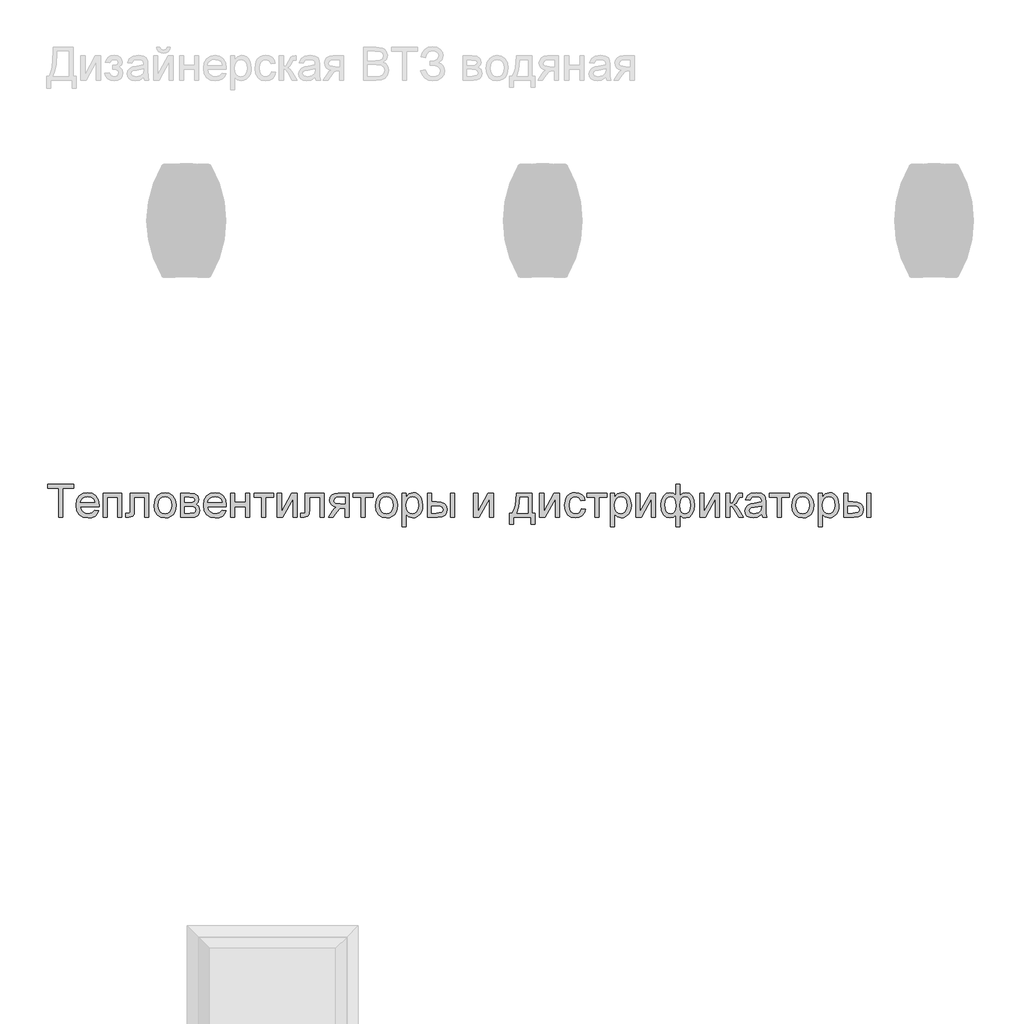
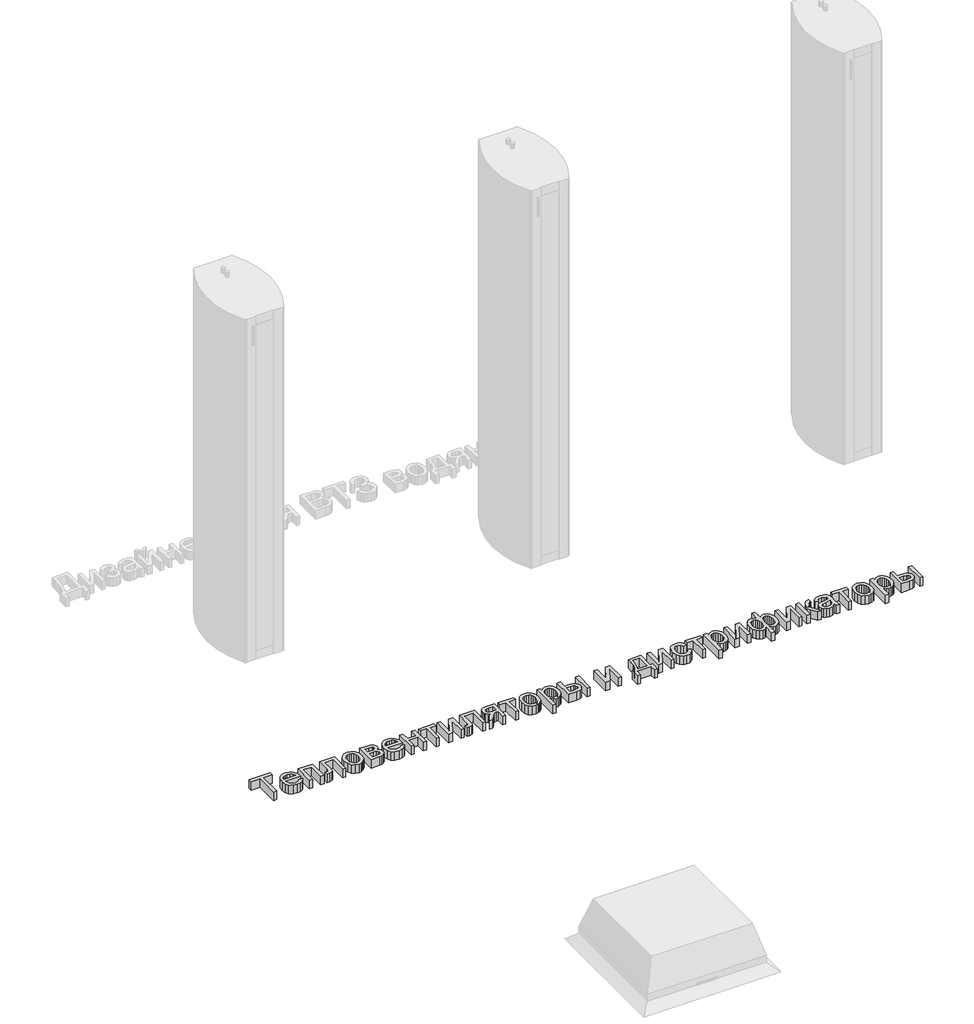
# One storey, part 2 of 6: 1 proxy.
"""IFC4 building model written with IfcOpenShell, lengths in millimetres."""

import ifcopenshell
import ifcopenshell.guid

model = None  # the IFC model being written
_history = None  # IfcOwnerHistory: only IFC2X3 demands one
_inside = {}  # id of a spatial element -> (the spatial element, [elements in it])
_under = {}  # id of a project, library or spatial element -> (it, [spatial elements below it])
_declared = {}  # id of a project -> (the project, [libraries it declares])
_typed = {}  # id of a type object -> (the type object, [elements of that type])
_made_of = {}  # id of a material, layer set ... -> (it, [elements and type objects made of it])


def new_model(schema):
    """Start an empty IFC model of exactly this schema.

    Asked for "IFC4X3", IfcOpenShell would pick the latest addendum, in which some entities
    have other attributes; the version numbers below select the first issue.
    IFC2X3 requires an IfcOwnerHistory on every rooted entity: one is made here for all.
    """
    global model, _history
    if schema == "IFC4X3":
        model = ifcopenshell.file(schema_version=(4, 3, 0, 0))
    else:
        model = ifcopenshell.file(schema=schema)
    _inside.clear()
    _under.clear()
    _declared.clear()
    _typed.clear()
    _made_of.clear()
    _history = None
    if model.schema == "IFC2X3":
        org = make("IfcOrganization", Name="unknown")
        user = make(
            "IfcPersonAndOrganization",
            ThePerson=make("IfcPerson", FamilyName="unknown"),
            TheOrganization=org,
        )
        app = make(
            "IfcApplication",
            ApplicationDeveloper=org,
            Version="unknown",
            ApplicationFullName="unknown",
            ApplicationIdentifier="unknown",
        )
        _history = make(
            "IfcOwnerHistory",
            OwningUser=user,
            OwningApplication=app,
            ChangeAction="ADDED",
            CreationDate=0,
        )
    return model


def make(cls, **values):
    """One entity of the class cls with the attributes given. An attribute that is None is left unset."""
    return model.create_entity(
        cls, **{name: value for name, value in values.items() if value is not None}
    )


def rooted(cls, **values):
    """An entity with a GlobalId (a new one), such as an element, a storey or a relation."""
    return make(cls, GlobalId=ifcopenshell.guid.new(), OwnerHistory=_history, **values)


def si_unit(unit_type, name, prefix=None):
    """IfcSIUnit, for example si_unit("LENGTHUNIT", "METRE", prefix="MILLI")."""
    return make("IfcSIUnit", UnitType=unit_type, Prefix=prefix, Name=name)


def assignment(units):
    """IfcUnitAssignment: the units of a project."""
    return None if units is None else make("IfcUnitAssignment", Units=units)


def point(xyz):
    """IfcCartesianPoint."""
    return None if xyz is None else make("IfcCartesianPoint", Coordinates=xyz)


def direction(xyz):
    """IfcDirection."""
    return None if xyz is None else make("IfcDirection", DirectionRatios=xyz)


def frame(location, z_axis=None, x_axis=None):
    """IfcAxis2Placement3D, a coordinate frame: its origin and axes. An axis left out is left unset."""
    return make(
        "IfcAxis2Placement3D",
        Location=point(location),
        Axis=direction(z_axis),
        RefDirection=direction(x_axis),
    )


def origin():
    """The frame at (0, 0, 0) with its axes left unset."""
    return frame((0.0, 0.0, 0.0))


def origin_with_axes():
    """The frame at (0, 0, 0) with the z axis (0, 0, 1) and the x axis (1, 0, 0) written out."""
    return frame((0.0, 0.0, 0.0), z_axis=(0.0, 0.0, 1.0), x_axis=(1.0, 0.0, 0.0))


def place(relative_to, where):
    """IfcLocalPlacement: puts the frame where relative to a parent placement (None: the world)."""
    return make(
        "IfcLocalPlacement", PlacementRelTo=relative_to, RelativePlacement=where
    )


def context(
    kind, dimensions, precision=None, world=None, true_north=None, identifier=None
):
    """IfcGeometricRepresentationContext, for example the 3D "Model" context."""
    return make(
        "IfcGeometricRepresentationContext",
        ContextIdentifier=identifier,
        ContextType=kind,
        CoordinateSpaceDimension=dimensions,
        Precision=precision,
        WorldCoordinateSystem=world,
        TrueNorth=true_north,
    )


def project(units=None, contexts=None):
    """IfcProject with its units and contexts."""
    return rooted(
        "IfcProject",
        Name="project",
        RepresentationContexts=contexts,
        UnitsInContext=assignment(units),
    )


def spatial(cls, under=None, at=None, **own):
    """A site, building, storey or space (cls), placed at a placement, below another one or the project."""
    s = rooted(cls, ObjectPlacement=at, **own)
    if under is not None:
        _under.setdefault(under.id(), (under, []))[1].append(s)
    return s


def polyline(points):
    """IfcPolyline through the points."""
    return make("IfcPolyline", Points=[point(p) for p in points])


def outline(outer, holes=None, kind="AREA"):
    """IfcArbitraryClosedProfileDef: a profile drawn as a closed curve; with holes, ...WithVoids."""
    if holes is None:
        return make("IfcArbitraryClosedProfileDef", ProfileType=kind, OuterCurve=outer)
    return make(
        "IfcArbitraryProfileDefWithVoids",
        ProfileType=kind,
        OuterCurve=outer,
        InnerCurves=holes,
    )


def extrude(swept, where, along, depth):
    """IfcExtrudedAreaSolid: the profile swept, set in the frame where, extruded along a direction by depth."""
    return make(
        "IfcExtrudedAreaSolid",
        SweptArea=swept,
        Position=where,
        ExtrudedDirection=direction(along),
        Depth=depth,
    )


def shape(context_of_items, identifier, shape_type, items):
    """IfcShapeRepresentation: the items that make up one representation, for example the "Body"."""
    return make(
        "IfcShapeRepresentation",
        ContextOfItems=context_of_items,
        RepresentationIdentifier=identifier,
        RepresentationType=shape_type,
        Items=items,
    )


def made_of(thing, what):
    """Note that an element or type object is made of a material, layer set ...; save() writes the relation."""
    if what is not None:
        _made_of.setdefault(what.id(), (what, []))[1].append(thing)
    return thing


def element(
    cls,
    number,
    at=None,
    inside=None,
    cuts=None,
    type_object=None,
    material=None,
    context=None,
    identifier="Body",
    shape_type=None,
    held_by="IfcProductDefinitionShape",
    body=None,
    shapes=None,
    **own,
):
    """One element of the class cls, such as IfcWall. Its Tag is "e" and its number.

    at: its placement. inside: the storey or other place that contains it. cuts: it is an
    opening in that element (IfcRelVoidsElement). A single representation is given by context,
    identifier, shape_type and body (its items); several are given by shapes. held_by: the class
    of the entity that holds the representations. save() writes the other relations.
    """
    e = rooted(cls, Tag="e%d" % number, ObjectPlacement=at, **own)
    if body is not None:
        shapes = [shape(context, identifier, shape_type, body)]
    if shapes is not None:
        e.Representation = make(held_by, Representations=shapes)
    if inside is not None:
        _inside.setdefault(inside.id(), (inside, []))[1].append(e)
    if cuts is not None:
        rooted(
            "IfcRelVoidsElement", RelatingBuildingElement=cuts, RelatedOpeningElement=e
        )
    if type_object is not None:
        _typed.setdefault(type_object.id(), (type_object, []))[1].append(e)
    return made_of(e, material)


def aggregate(whole, parts):
    """IfcRelAggregates: a whole, such as a stair, and the parts it consists of."""
    return rooted("IfcRelAggregates", RelatingObject=whole, RelatedObjects=parts)


def save(model, path):
    """Write the relations noted so far, then the file.

    IfcRelAggregates (storeys below a building ...), IfcRelContainedInSpatialStructure (elements
    in a storey), IfcRelDefinesByType, IfcRelAssociatesMaterial and IfcRelDeclares: one each for
    every whole, place, type object, material and project.
    """
    for whole, parts in _under.values():
        aggregate(whole, parts)
    for where, things in _inside.values():
        rooted(
            "IfcRelContainedInSpatialStructure",
            RelatedElements=things,
            RelatingStructure=where,
        )
    for kind, things in _typed.values():
        rooted("IfcRelDefinesByType", RelatedObjects=things, RelatingType=kind)
    for what, things in _made_of.values():
        rooted("IfcRelAssociatesMaterial", RelatedObjects=things, RelatingMaterial=what)
    for by, libraries in _declared.values():
        rooted("IfcRelDeclares", RelatingContext=by, RelatedDefinitions=libraries)
    model.write(path)


model = new_model("IFC4")

# Units and contexts
model_context = context("Model", 3, world=origin())
ifc_project = project(units=[si_unit("LENGTHUNIT", "METRE", prefix="MILLI")], contexts=[model_context])

# Site, building, storey
site = spatial("IfcSite", under=ifc_project)
building = spatial("IfcBuilding", under=site)
storey = spatial("IfcBuildingStorey", under=building, Name="Уровень 1", Elevation=0.0)

# Proxy
placement = place(None, origin())
element("IfcBuildingElementProxy", 1, Name="600 мм Arial", ObjectType="600 мм Arial", at=placement, inside=storey, context=model_context, shape_type="SweptSolid", body=[
    extrude(outline(polyline([(-13705.1624214, -4991.0848445), (-13705.1624214, -4861.8540753), (-13753.6239599, -4861.8540753), (-13753.6239599, -4843.3925368), (-13638.2393445, -4843.3925368), (-13638.2393445, -4861.8540753), (-13686.700883, -4861.8540753), (-13686.700883, -4991.0848445), (-13705.1624214, -4991.0848445)])), origin_with_axes(), (0.0, 0.0, 1.0), 50.0),
    extrude(outline(polyline([(-13543.840306, -4958.7771522), (-13525.7393445, -4961.0848445), (-13532.2612796, -4974.7236666), (-13542.668431, -4984.9189791), (-13556.7264238, -4991.2741474), (-13574.200883, -4993.3925368), (-13595.8625416, -4989.7371883), (-13612.5302099, -4978.7711426), (-13623.1582147, -4961.2065392), (-13626.700883, -4937.7555176), (-13623.122157, -4913.5157339), (-13612.3859791, -4895.3877291), (-13595.9436714, -4884.0836426), (-13575.246556, -4880.3156137), (-13555.1939719, -4884.0746282), (-13539.1708349, -4895.3516714), (-13528.6645248, -4913.4436186), (-13525.1624214, -4937.6473445), (-13525.2705945, -4942.6233061), (-13608.2393445, -4942.6233061), (-13605.0437315, -4956.4424166), (-13597.6203541, -4966.6016714), (-13586.9067123, -4972.8486666), (-13573.840306, -4974.9309984), (-13555.7393445, -4971.0728253), (-13543.840306, -4958.7771522)]), holes=[polyline([(-13608.2393445, -4924.1617676), (-13543.6239599, -4924.1617676), (-13546.1209551, -4914.4081618), (-13551.0157868, -4907.4309984), (-13561.779008, -4900.9406137), (-13575.3186714, -4898.7771522), (-13587.7630825, -4900.5034142), (-13598.0530464, -4905.6822003), (-13605.2059911, -4913.7546162), (-13608.2393445, -4924.1617676)])]), origin_with_axes(), (0.0, 0.0, 1.0), 50.0),
    extrude(outline(polyline([(-13506.700883, -4882.6233061), (-13423.6239599, -4882.6233061), (-13423.6239599, -4991.0848445), (-13442.0854983, -4991.0848445), (-13442.0854983, -4901.0848445), (-13488.2393445, -4901.0848445), (-13488.2393445, -4991.0848445), (-13506.700883, -4991.0848445), (-13506.700883, -4882.6233061)])), origin_with_axes(), (0.0, 0.0, 1.0), 50.0),
    extrude(outline(polyline([(-13386.700883, -4882.6233061), (-13303.6239599, -4882.6233061), (-13303.6239599, -4990.9766714), (-13322.0854983, -4990.9766714), (-13322.0854983, -4901.0848445), (-13368.2393445, -4901.0848445), (-13368.2393445, -4952.827633), (-13369.4833349, -4976.6978253), (-13376.3162676, -4986.7759503), (-13392.4701137, -4991.0848445), (-13407.4701137, -4990.1473445), (-13407.4701137, -4972.6233061), (-13399.2129022, -4972.6233061), (-13390.8655464, -4971.4874887), (-13387.5302099, -4967.8817195), (-13386.700883, -4951.7819599), (-13386.700883, -4882.6233061)])), origin_with_axes(), (0.0, 0.0, 1.0), 50.0),
    extrude(outline(polyline([(-13280.5470368, -4936.8540753), (-13276.5536474, -4910.7032339), (-13264.5734791, -4892.3228253), (-13249.7717964, -4883.3174166), (-13232.0494407, -4880.3156137), (-13212.6549094, -4883.9709623), (-13197.1636233, -4894.937008), (-13187.0088758, -4912.3483662), (-13183.6239599, -4935.3396522), (-13185.1203541, -4953.9904936), (-13189.6095368, -4968.1882099), (-13196.9607988, -4978.8207219), (-13207.043431, -4986.7759503), (-13219.0190921, -4991.7383902), (-13232.0494407, -4993.3925368), (-13251.6783469, -4989.7507099), (-13267.1516041, -4978.8252291), (-13277.1981786, -4961.0487868), (-13280.5470368, -4936.8540753)]), holes=[polyline([(-13262.0854983, -4936.8180176), (-13259.9490801, -4953.5262508), (-13253.5398253, -4965.4297964), (-13243.8943926, -4972.5556979), (-13232.0494407, -4974.9309984), (-13220.2585753, -4972.5421762), (-13210.6311714, -4965.3757099), (-13204.2219166, -4953.3144118), (-13202.0854983, -4936.2410945), (-13204.2354383, -4920.0196402), (-13210.685258, -4908.2783541), (-13220.3261834, -4901.1524527), (-13232.0494407, -4898.7771522), (-13243.8943926, -4901.1434383), (-13253.5398253, -4908.2422964), (-13259.9490801, -4920.1187988), (-13262.0854983, -4936.8180176)])]), origin_with_axes(), (0.0, 0.0, 1.0), 50.0),
    extrude(outline(polyline([(-13162.8547291, -4882.6233061), (-13122.1816522, -4882.6233061), (-13099.8799695, -4885.093258), (-13087.3318926, -4894.1437387), (-13082.0854983, -4909.9189791), (-13085.2585753, -4922.7374887), (-13094.8138637, -4931.8781137), (-13082.4100176, -4941.8841234), (-13077.4701137, -4959.2819599), (-13080.5981185, -4973.3534743), (-13088.0350176, -4983.2603253), (-13099.8078541, -4989.1287147), (-13115.9436714, -4991.0848445), (-13162.8547291, -4991.0848445), (-13162.8547291, -4882.6233061)]), holes=[polyline([(-13144.3931907, -4924.1617676), (-13126.1479983, -4924.1617676), (-13111.0939118, -4923.2242676), (-13103.7742003, -4919.4742676), (-13100.5470368, -4912.6954214), (-13101.9623012, -4907.1876089), (-13106.2080945, -4903.6449407), (-13125.5710753, -4901.0848445), (-13144.3931907, -4901.0848445), (-13144.3931907, -4924.1617676)]), polyline([(-13144.3931907, -4972.6233061), (-13121.7489599, -4972.6233061), (-13101.6648253, -4969.2879695), (-13097.5091762, -4964.7401931), (-13095.9316522, -4957.7675368), (-13099.0867003, -4948.8793157), (-13107.3078541, -4943.7050368), (-13123.5518445, -4942.6233061), (-13144.3931907, -4942.6233061), (-13144.3931907, -4972.6233061)])]), origin_with_axes(), (0.0, 0.0, 1.0), 50.0),
    extrude(outline(polyline([(-12978.4556907, -4958.7771522), (-12960.3547291, -4961.0848445), (-12966.8766642, -4974.7236666), (-12977.2838157, -4984.9189791), (-12991.3418084, -4991.2741474), (-13008.8162676, -4993.3925368), (-13030.4779262, -4989.7371883), (-13047.1455945, -4978.7711426), (-13057.7735993, -4961.2065392), (-13061.3162676, -4937.7555176), (-13057.7375416, -4913.5157339), (-13047.0013637, -4895.3877291), (-13030.559056, -4884.0836426), (-13009.8619407, -4880.3156137), (-12989.8093565, -4884.0746282), (-12973.7862195, -4895.3516714), (-12963.2799094, -4913.4436186), (-12959.777806, -4937.6473445), (-12959.8859791, -4942.6233061), (-13042.8547291, -4942.6233061), (-13039.6591161, -4956.4424166), (-13032.2357387, -4966.6016714), (-13021.5220969, -4972.8486666), (-13008.4556907, -4974.9309984), (-12990.3547291, -4971.0728253), (-12978.4556907, -4958.7771522)]), holes=[polyline([(-13042.8547291, -4924.1617676), (-12978.2393445, -4924.1617676), (-12980.7363397, -4914.4081618), (-12985.6311714, -4907.4309984), (-12996.3943926, -4900.9406137), (-13009.934056, -4898.7771522), (-13022.3784671, -4900.5034142), (-13032.668431, -4905.6822003), (-13039.8213758, -4913.7546162), (-13042.8547291, -4924.1617676)])]), origin_with_axes(), (0.0, 0.0, 1.0), 50.0),
    extrude(outline(polyline([(-12941.3162676, -4882.6233061), (-12922.8547291, -4882.6233061), (-12922.8547291, -4924.1617676), (-12874.3931907, -4924.1617676), (-12874.3931907, -4882.6233061), (-12855.9316522, -4882.6233061), (-12855.9316522, -4991.0848445), (-12874.3931907, -4991.0848445), (-12874.3931907, -4942.6233061), (-12922.8547291, -4942.6233061), (-12922.8547291, -4991.0848445), (-12941.3162676, -4991.0848445), (-12941.3162676, -4882.6233061)])), origin_with_axes(), (0.0, 0.0, 1.0), 50.0),
    extrude(outline(polyline([(-12837.4701137, -4882.6233061), (-12749.777806, -4882.6233061), (-12749.777806, -4901.0848445), (-12784.3931907, -4901.0848445), (-12784.3931907, -4991.0848445), (-12802.8547291, -4991.0848445), (-12802.8547291, -4901.0848445), (-12837.4701137, -4901.0848445), (-12837.4701137, -4882.6233061)])), origin_with_axes(), (0.0, 0.0, 1.0), 50.0),
    extrude(outline(polyline([(-12733.6239599, -4882.6233061), (-12715.1624214, -4882.6233061), (-12715.1624214, -4965.3396522), (-12669.8018445, -4882.6233061), (-12645.9316522, -4882.6233061), (-12645.9316522, -4991.0848445), (-12664.3931907, -4991.0848445), (-12664.3931907, -4908.8733061), (-12709.465306, -4991.0848445), (-12733.6239599, -4991.0848445), (-12733.6239599, -4882.6233061)])), origin_with_axes(), (0.0, 0.0, 1.0), 50.0),
    extrude(outline(polyline([(-12609.0085753, -4882.6233061), (-12525.9316522, -4882.6233061), (-12525.9316522, -4990.9766714), (-12544.3931907, -4990.9766714), (-12544.3931907, -4901.0848445), (-12590.5470368, -4901.0848445), (-12590.5470368, -4952.827633), (-12591.7910272, -4976.6978253), (-12598.6239599, -4986.7759503), (-12614.777806, -4991.0848445), (-12629.777806, -4990.1473445), (-12629.777806, -4972.6233061), (-12621.5205945, -4972.6233061), (-12613.1732387, -4971.4874887), (-12609.8379022, -4967.8817195), (-12609.0085753, -4951.7819599), (-12609.0085753, -4882.6233061)])), origin_with_axes(), (0.0, 0.0, 1.0), 50.0),
    extrude(outline(polyline([(-12415.1624214, -4882.6233061), (-12415.1624214, -4991.0848445), (-12433.6239599, -4991.0848445), (-12433.6239599, -4949.546383), (-12443.684056, -4949.546383), (-12457.3859791, -4951.890133), (-12470.2585753, -4967.6473445), (-12484.9701137, -4991.0848445), (-12506.3162676, -4991.0848445), (-12487.7826137, -4961.4454214), (-12479.5975176, -4950.8084022), (-12472.0614599, -4946.0848445), (-12484.6816522, -4942.217657), (-12493.5518445, -4934.8709022), (-12498.7982387, -4925.0992676), (-12500.5470368, -4913.9574407), (-12498.1582147, -4901.3192195), (-12490.9917483, -4891.3132099), (-12479.3000416, -4884.795782), (-12463.3354983, -4882.6233061), (-12415.1624214, -4882.6233061)]), holes=[polyline([(-12433.6239599, -4901.0848445), (-12457.9629022, -4901.0848445), (-12470.5335152, -4902.1530537), (-12477.668431, -4905.3576811), (-12482.0854983, -4915.3636907), (-12480.458395, -4922.3994479), (-12475.5770849, -4927.280758), (-12452.5181907, -4931.0848445), (-12433.6239599, -4931.0848445), (-12433.6239599, -4901.0848445)])]), origin_with_axes(), (0.0, 0.0, 1.0), 50.0),
    extrude(outline(polyline([(-12396.700883, -4882.6233061), (-12309.0085753, -4882.6233061), (-12309.0085753, -4901.0848445), (-12343.6239599, -4901.0848445), (-12343.6239599, -4991.0848445), (-12362.0854983, -4991.0848445), (-12362.0854983, -4901.0848445), (-12396.700883, -4901.0848445), (-12396.700883, -4882.6233061)])), origin_with_axes(), (0.0, 0.0, 1.0), 50.0),
    extrude(outline(polyline([(-12297.4701137, -4936.8540753), (-12293.4767243, -4910.7032339), (-12281.496556, -4892.3228253), (-12266.6948733, -4883.3174166), (-12248.9725176, -4880.3156137), (-12229.5779863, -4883.9709623), (-12214.0867003, -4894.937008), (-12203.9319527, -4912.3483662), (-12200.5470368, -4935.3396522), (-12202.043431, -4953.9904936), (-12206.5326137, -4968.1882099), (-12213.8838758, -4978.8207219), (-12223.966508, -4986.7759503), (-12235.942169, -4991.7383902), (-12248.9725176, -4993.3925368), (-12268.6014238, -4989.7507099), (-12284.074681, -4978.8252291), (-12294.1212556, -4961.0487868), (-12297.4701137, -4936.8540753)]), holes=[polyline([(-12279.0085753, -4936.8180176), (-12276.872157, -4953.5262508), (-12270.4629022, -4965.4297964), (-12260.8174695, -4972.5556979), (-12248.9725176, -4974.9309984), (-12237.1816522, -4972.5421762), (-12227.5542483, -4965.3757099), (-12221.1449935, -4953.3144118), (-12219.0085753, -4936.2410945), (-12221.1585152, -4920.0196402), (-12227.6083349, -4908.2783541), (-12237.2492604, -4901.1524527), (-12248.9725176, -4898.7771522), (-12260.8174695, -4901.1434383), (-12270.4629022, -4908.2422964), (-12276.872157, -4920.1187988), (-12279.0085753, -4936.8180176)])]), origin_with_axes(), (0.0, 0.0, 1.0), 50.0),
    extrude(outline(polyline([(-12179.777806, -5032.6233061), (-12179.777806, -4882.6233061), (-12161.3162676, -4882.6233061), (-12161.3162676, -4900.7242676), (-12148.5518445, -4885.4177772), (-12131.3162676, -4880.3156137), (-12118.8312916, -4882.1004695), (-12107.9148253, -4887.4550368), (-12099.0266041, -4896.0547964), (-12092.6263637, -4907.5752291), (-12087.4701137, -4936.0247484), (-12088.9259431, -4951.8135104), (-12093.293431, -4965.9346041), (-12100.4328541, -4977.671383), (-12110.2044887, -4986.3072003), (-12121.5851979, -4991.6212027), (-12133.5518445, -4993.3925368), (-12149.6155464, -4988.6509503), (-12161.3162676, -4976.6617676), (-12161.3162676, -5032.6233061), (-12179.777806, -5032.6233061)]), holes=[polyline([(-12161.3162676, -4937.7194599), (-12159.3195729, -4954.2699407), (-12153.3294887, -4965.8444599), (-12144.4908469, -4972.6593637), (-12133.9484791, -4974.9309984), (-12123.2348373, -4972.5782339), (-12114.1708349, -4965.5199407), (-12107.9914479, -4953.5217436), (-12105.9316522, -4936.3492676), (-12107.9418685, -4919.8889311), (-12113.9725176, -4908.1521522), (-12122.7976378, -4901.1209022), (-12133.1912676, -4898.7771522), (-12143.6254623, -4901.2696402), (-12152.7886233, -4908.7471041), (-12159.1843565, -4920.975169), (-12161.3162676, -4937.7194599)])]), origin_with_axes(), (0.0, 0.0, 1.0), 50.0),
    extrude(outline(polyline([(-12066.700883, -4882.6233061), (-12048.2393445, -4882.6233061), (-12048.2393445, -4921.8540753), (-12025.4148253, -4921.8540753), (-12005.6867604, -4924.1662748), (-11991.0698733, -4931.1028734), (-11982.0238998, -4942.1049767), (-11979.0085753, -4956.6136907), (-11981.5371209, -4969.8243277), (-11989.122758, -4980.9706618), (-12002.2612796, -4988.5562988), (-12021.4484791, -4991.0848445), (-12066.700883, -4991.0848445), (-12066.700883, -4882.6233061)]), holes=[polyline([(-12048.2393445, -4972.6233061), (-12029.2729983, -4972.6233061), (-12004.7898253, -4968.7471041), (-11999.3000416, -4963.7846642), (-11997.4701137, -4956.6497484), (-12002.8967964, -4945.2915753), (-12011.6002219, -4941.5596041), (-12026.857133, -4940.3156137), (-12048.2393445, -4940.3156137), (-12048.2393445, -4972.6233061)])]), origin_with_axes(), (0.0, 0.0, 1.0), 50.0),
    extrude(outline(polyline([(-11965.1624214, -4882.6233061), (-11946.700883, -4882.6233061), (-11946.700883, -4991.0848445), (-11965.1624214, -4991.0848445), (-11965.1624214, -4882.6233061)])), origin_with_axes(), (0.0, 0.0, 1.0), 50.0),
    extrude(outline(polyline([(-11861.3162676, -4882.6233061), (-11842.8547291, -4882.6233061), (-11842.8547291, -4965.3396522), (-11797.4941522, -4882.6233061), (-11773.6239599, -4882.6233061), (-11773.6239599, -4991.0848445), (-11792.0854983, -4991.0848445), (-11792.0854983, -4908.8733061), (-11837.1576137, -4991.0848445), (-11861.3162676, -4991.0848445), (-11861.3162676, -4882.6233061)])), origin_with_axes(), (0.0, 0.0, 1.0), 50.0),
    extrude(outline(polyline([(-11672.0854983, -4882.6233061), (-11602.8547291, -4882.6233061), (-11602.8547291, -4972.6233061), (-11589.0085753, -4972.6233061), (-11589.0085753, -5021.0848445), (-11607.4701137, -5021.0848445), (-11607.4701137, -4991.0848445), (-11683.6239599, -4991.0848445), (-11683.6239599, -5021.0848445), (-11702.0854983, -5021.0848445), (-11702.0854983, -4972.6233061), (-11690.5470368, -4972.6233061), (-11682.1591161, -4957.4655537), (-11676.2862195, -4937.4129695), (-11672.0854983, -4882.6233061)]), holes=[polyline([(-11655.9316522, -4901.0848445), (-11660.2585753, -4943.1461426), (-11669.777806, -4972.6233061), (-11621.3162676, -4972.6233061), (-11621.3162676, -4901.0848445), (-11655.9316522, -4901.0848445)])]), origin_with_axes(), (0.0, 0.0, 1.0), 50.0),
    extrude(outline(polyline([(-11568.2393445, -4882.6233061), (-11549.777806, -4882.6233061), (-11549.777806, -4965.3396522), (-11504.4172291, -4882.6233061), (-11480.5470368, -4882.6233061), (-11480.5470368, -4991.0848445), (-11499.0085753, -4991.0848445), (-11499.0085753, -4908.8733061), (-11544.0806907, -4991.0848445), (-11568.2393445, -4991.0848445), (-11568.2393445, -4882.6233061)])), origin_with_axes(), (0.0, 0.0, 1.0), 50.0),
    extrude(outline(polyline([(-11383.6239599, -4951.8540753), (-11365.1624214, -4954.1617676), (-11370.309657, -4970.5815392), (-11379.982133, -4982.9898926), (-11393.2693926, -4990.7918758), (-11409.2609791, -4993.3925368), (-11428.8988998, -4989.7642315), (-11444.2549695, -4978.8793157), (-11454.1663277, -4961.2155537), (-11457.4701137, -4937.2507099), (-11451.8270849, -4906.5836426), (-11444.7056907, -4895.085746), (-11434.6275657, -4886.8781137), (-11422.5707748, -4881.9562387), (-11409.513383, -4880.3156137), (-11393.9139238, -4882.5692195), (-11381.4424695, -4889.3300368), (-11372.4956546, -4900.2374887), (-11367.4701137, -4914.9309984), (-11385.9316522, -4917.2386907), (-11394.4953541, -4903.4105657), (-11409.3691522, -4898.7771522), (-11421.2997411, -4901.0578012), (-11430.7693926, -4907.8997484), (-11436.9487796, -4919.6725849), (-11439.0085753, -4936.7459022), (-11436.9938517, -4954.0490873), (-11430.949681, -4965.8624887), (-11421.6513036, -4972.663871), (-11409.8739599, -4974.9309984), (-11400.3141642, -4973.5157339), (-11392.4761233, -4969.2699407), (-11386.7745008, -4962.0854455), (-11383.6239599, -4951.8540753)])), origin_with_axes(), (0.0, 0.0, 1.0), 50.0),
    extrude(outline(polyline([(-11358.2393445, -4882.6233061), (-11270.5470368, -4882.6233061), (-11270.5470368, -4901.0848445), (-11305.1624214, -4901.0848445), (-11305.1624214, -4991.0848445), (-11323.6239599, -4991.0848445), (-11323.6239599, -4901.0848445), (-11358.2393445, -4901.0848445), (-11358.2393445, -4882.6233061)])), origin_with_axes(), (0.0, 0.0, 1.0), 50.0),
    extrude(outline(polyline([(-11254.3931907, -5032.6233061), (-11254.3931907, -4882.6233061), (-11235.9316522, -4882.6233061), (-11235.9316522, -4900.7242676), (-11223.1672291, -4885.4177772), (-11205.9316522, -4880.3156137), (-11193.4466762, -4882.1004695), (-11182.5302099, -4887.4550368), (-11173.6419887, -4896.0547964), (-11167.2417483, -4907.5752291), (-11162.0854983, -4936.0247484), (-11163.5413277, -4951.8135104), (-11167.9088157, -4965.9346041), (-11175.0482387, -4977.671383), (-11184.8198733, -4986.3072003), (-11196.2005825, -4991.6212027), (-11208.1672291, -4993.3925368), (-11224.230931, -4988.6509503), (-11235.9316522, -4976.6617676), (-11235.9316522, -5032.6233061), (-11254.3931907, -5032.6233061)]), holes=[polyline([(-11235.9316522, -4937.7194599), (-11233.9349575, -4954.2699407), (-11227.9448733, -4965.8444599), (-11219.1062315, -4972.6593637), (-11208.5638637, -4974.9309984), (-11197.8502219, -4972.5782339), (-11188.7862195, -4965.5199407), (-11182.6068325, -4953.5217436), (-11180.5470368, -4936.3492676), (-11182.5572532, -4919.8889311), (-11188.5879022, -4908.1521522), (-11197.4130224, -4901.1209022), (-11207.8066522, -4898.7771522), (-11218.2408469, -4901.2696402), (-11227.404008, -4908.7471041), (-11233.7997411, -4920.975169), (-11235.9316522, -4937.7194599)])]), origin_with_axes(), (0.0, 0.0, 1.0), 50.0),
    extrude(outline(polyline([(-11141.3162676, -4882.6233061), (-11122.8547291, -4882.6233061), (-11122.8547291, -4965.3396522), (-11077.4941522, -4882.6233061), (-11053.6239599, -4882.6233061), (-11053.6239599, -4991.0848445), (-11072.0854983, -4991.0848445), (-11072.0854983, -4908.8733061), (-11117.1576137, -4991.0848445), (-11141.3162676, -4991.0848445), (-11141.3162676, -4882.6233061)])), origin_with_axes(), (0.0, 0.0, 1.0), 50.0),
    extrude(outline(polyline([(-10963.6239599, -4843.3925368), (-10945.1624214, -4843.3925368), (-10945.1624214, -4893.0439791), (-10933.4256426, -4883.4706618), (-10919.669633, -4880.3156137), (-10903.5112796, -4884.327032), (-10891.0939118, -4896.3612868), (-10883.1837556, -4914.4802772), (-10880.5470368, -4936.7459022), (-10883.3865801, -4959.6921162), (-10891.9052099, -4977.7615272), (-10904.6425897, -4989.4847844), (-10920.138383, -4993.3925368), (-10931.4244407, -4991.5896522), (-10945.1624214, -4981.7459022), (-10945.1624214, -5032.6233061), (-10963.6239599, -5032.6233061), (-10963.6239599, -4981.7459022), (-10975.4148253, -4990.4718637), (-10989.3691522, -4993.3925368), (-11004.8379022, -4989.6605657), (-11018.215306, -4978.4646522), (-11027.4641041, -4960.3186186), (-11030.5470368, -4935.7362868), (-11027.7570729, -4914.092657), (-11019.387181, -4896.2531137), (-11006.3027459, -4884.2999887), (-10989.3691522, -4880.3156137), (-10975.0722772, -4883.4706618), (-10963.6239599, -4893.0439791), (-10963.6239599, -4843.3925368)]), holes=[polyline([(-10945.2705945, -4937.1785945), (-10943.7336354, -4955.8700008), (-10939.122758, -4967.2326811), (-10932.1951738, -4973.006419), (-10923.7080945, -4974.9309984), (-10914.2204142, -4972.5647123), (-10906.2381426, -4965.4658541), (-10900.8159671, -4953.38202), (-10899.0085753, -4936.0608061), (-10900.6762435, -4919.6365272), (-10905.6792483, -4908.0079214), (-10913.2964358, -4901.0848445), (-10922.8066522, -4898.7771522), (-10932.6008229, -4901.179496), (-10939.6275657, -4908.3865272), (-10943.8598373, -4920.3892315), (-10945.2705945, -4937.1785945)]), polyline([(-11012.0854983, -4935.3396522), (-11010.2375416, -4953.4496282), (-11004.6936714, -4965.6641714), (-10996.4094166, -4972.6142916), (-10986.340306, -4974.9309984), (-10976.3207748, -4972.6278133), (-10969.1948733, -4965.718258), (-10964.9355584, -4954.2023325), (-10963.5157868, -4938.0800368), (-10965.0076738, -4920.8850248), (-10969.4833349, -4908.6028734), (-10976.9698133, -4901.2335825), (-10987.4941522, -4898.7771522), (-10997.3739599, -4901.1749887), (-11005.2345368, -4908.3684984), (-11010.372758, -4919.9069599), (-11012.0854983, -4935.3396522)])]), origin_with_axes(), (0.0, 0.0, 1.0), 50.0),
    extrude(outline(polyline([(-10857.4701137, -4882.6233061), (-10839.0085753, -4882.6233061), (-10839.0085753, -4965.3396522), (-10793.6479983, -4882.6233061), (-10769.777806, -4882.6233061), (-10769.777806, -4991.0848445), (-10788.2393445, -4991.0848445), (-10788.2393445, -4908.8733061), (-10833.3114599, -4991.0848445), (-10857.4701137, -4991.0848445), (-10857.4701137, -4882.6233061)])), origin_with_axes(), (0.0, 0.0, 1.0), 50.0),
    extrude(outline(polyline([(-10742.0854983, -4882.6233061), (-10723.6239599, -4882.6233061), (-10723.6239599, -4928.7771522), (-10711.2561714, -4925.4598445), (-10701.1239599, -4906.1329214), (-10692.7044887, -4889.4562387), (-10685.2766041, -4884.0295561), (-10671.7729983, -4882.6233061), (-10668.2393445, -4882.6233061), (-10668.2393445, -4901.1930176), (-10673.215306, -4901.0848445), (-10682.2297291, -4903.0319599), (-10688.575883, -4915.1834022), (-10696.0217964, -4928.3264311), (-10706.4604983, -4934.7627291), (-10694.8138637, -4941.9472243), (-10683.3835753, -4957.0824407), (-10663.6239599, -4991.0848445), (-10684.6095368, -4991.0848445), (-10703.9725176, -4957.8035945), (-10713.7080945, -4943.7230657), (-10723.6239599, -4940.3156137), (-10723.6239599, -4991.0848445), (-10742.0854983, -4991.0848445), (-10742.0854983, -4882.6233061)])), origin_with_axes(), (0.0, 0.0, 1.0), 50.0),
    extrude(outline(polyline([(-10582.8547291, -4977.2386907), (-10600.7573733, -4989.7507099), (-10620.5350176, -4993.3925368), (-10635.9632027, -4991.202032), (-10647.3439118, -4984.6305176), (-10654.3616402, -4974.6515512), (-10656.700883, -4962.2386907), (-10653.1672291, -4947.6353253), (-10643.8823733, -4937.0343637), (-10630.9556907, -4930.9766714), (-10614.982133, -4928.2002291), (-10582.9629022, -4921.8540753), (-10582.8547291, -4917.7434984), (-10584.1257628, -4909.5043157), (-10587.9388637, -4904.1136907), (-10596.466508, -4900.1112868), (-10608.3475176, -4898.7771522), (-10627.0254022, -4902.3288349), (-10635.9316522, -4914.9309984), (-10654.3931907, -4912.6233061), (-10646.4064118, -4894.5944599), (-10630.324681, -4884.0295561), (-10605.9677099, -4880.3156137), (-10583.5939118, -4883.5968637), (-10570.9556907, -4891.8360464), (-10565.294633, -4904.3660945), (-10564.3931907, -4920.5199407), (-10564.3931907, -4943.4886907), (-10563.4556907, -4975.562008), (-10559.777806, -4991.0848445), (-10578.2393445, -4991.0848445), (-10582.8547291, -4977.2386907)]), holes=[polyline([(-10582.8547291, -4940.3156137), (-10612.638383, -4945.9766714), (-10628.5217964, -4948.9694599), (-10635.715306, -4953.8372484), (-10638.2393445, -4960.9406137), (-10632.7405464, -4970.9285945), (-10616.6047291, -4974.9309984), (-10597.9268445, -4970.5139311), (-10585.8835753, -4959.8228253), (-10582.9629022, -4945.5439791), (-10582.8547291, -4940.3156137)])]), origin_with_axes(), (0.0, 0.0, 1.0), 50.0),
    extrude(outline(polyline([(-10548.2393445, -4882.6233061), (-10460.5470368, -4882.6233061), (-10460.5470368, -4901.0848445), (-10495.1624214, -4901.0848445), (-10495.1624214, -4991.0848445), (-10513.6239599, -4991.0848445), (-10513.6239599, -4901.0848445), (-10548.2393445, -4901.0848445), (-10548.2393445, -4882.6233061)])), origin_with_axes(), (0.0, 0.0, 1.0), 50.0),
    extrude(outline(polyline([(-10449.0085753, -4936.8540753), (-10445.0151858, -4910.7032339), (-10433.0350176, -4892.3228253), (-10418.2333349, -4883.3174166), (-10400.5109791, -4880.3156137), (-10381.1164479, -4883.9709623), (-10365.6251618, -4894.937008), (-10355.4704142, -4912.3483662), (-10352.0854983, -4935.3396522), (-10353.5818926, -4953.9904936), (-10358.0710753, -4968.1882099), (-10365.4223373, -4978.8207219), (-10375.5049695, -4986.7759503), (-10387.4806306, -4991.7383902), (-10400.5109791, -4993.3925368), (-10420.1398854, -4989.7507099), (-10435.6131426, -4978.8252291), (-10445.6597171, -4961.0487868), (-10449.0085753, -4936.8540753)]), holes=[polyline([(-10430.5470368, -4936.8180176), (-10428.4106185, -4953.5262508), (-10422.0013637, -4965.4297964), (-10412.355931, -4972.5556979), (-10400.5109791, -4974.9309984), (-10388.7201137, -4972.5421762), (-10379.0927099, -4965.3757099), (-10372.6834551, -4953.3144118), (-10370.5470368, -4936.2410945), (-10372.6969767, -4920.0196402), (-10379.1467964, -4908.2783541), (-10388.7877219, -4901.1524527), (-10400.5109791, -4898.7771522), (-10412.355931, -4901.1434383), (-10422.0013637, -4908.2422964), (-10428.4106185, -4920.1187988), (-10430.5470368, -4936.8180176)])]), origin_with_axes(), (0.0, 0.0, 1.0), 50.0),
    extrude(outline(polyline([(-10331.3162676, -5032.6233061), (-10331.3162676, -4882.6233061), (-10312.8547291, -4882.6233061), (-10312.8547291, -4900.7242676), (-10300.090306, -4885.4177772), (-10282.8547291, -4880.3156137), (-10270.3697532, -4882.1004695), (-10259.4532868, -4887.4550368), (-10250.5650657, -4896.0547964), (-10244.1648253, -4907.5752291), (-10239.0085753, -4936.0247484), (-10240.4644046, -4951.8135104), (-10244.8318926, -4965.9346041), (-10251.9713157, -4977.671383), (-10261.7429503, -4986.3072003), (-10273.1236594, -4991.6212027), (-10285.090306, -4993.3925368), (-10301.154008, -4988.6509503), (-10312.8547291, -4976.6617676), (-10312.8547291, -5032.6233061), (-10331.3162676, -5032.6233061)]), holes=[polyline([(-10312.8547291, -4937.7194599), (-10310.8580344, -4954.2699407), (-10304.8679503, -4965.8444599), (-10296.0293084, -4972.6593637), (-10285.4869407, -4974.9309984), (-10274.7732988, -4972.5782339), (-10265.7092964, -4965.5199407), (-10259.5299094, -4953.5217436), (-10257.4701137, -4936.3492676), (-10259.4803301, -4919.8889311), (-10265.5109791, -4908.1521522), (-10274.3360993, -4901.1209022), (-10284.7297291, -4898.7771522), (-10295.1639238, -4901.2696402), (-10304.3270849, -4908.7471041), (-10310.7228181, -4920.975169), (-10312.8547291, -4937.7194599)])]), origin_with_axes(), (0.0, 0.0, 1.0), 50.0),
    extrude(outline(polyline([(-10218.2393445, -4882.6233061), (-10199.777806, -4882.6233061), (-10199.777806, -4921.8540753), (-10176.9532868, -4921.8540753), (-10157.2252219, -4924.1662748), (-10142.6083349, -4931.1028734), (-10133.5623613, -4942.1049767), (-10130.5470368, -4956.6136907), (-10133.0755825, -4969.8243277), (-10140.6612195, -4980.9706618), (-10153.7997411, -4988.5562988), (-10172.9869407, -4991.0848445), (-10218.2393445, -4991.0848445), (-10218.2393445, -4882.6233061)]), holes=[polyline([(-10199.777806, -4972.6233061), (-10180.8114599, -4972.6233061), (-10156.3282868, -4968.7471041), (-10150.8385032, -4963.7846642), (-10149.0085753, -4956.6497484), (-10154.435258, -4945.2915753), (-10163.1386834, -4941.5596041), (-10178.3955945, -4940.3156137), (-10199.777806, -4940.3156137), (-10199.777806, -4972.6233061)])]), origin_with_axes(), (0.0, 0.0, 1.0), 50.0),
    extrude(outline(polyline([(-10116.700883, -4882.6233061), (-10098.2393445, -4882.6233061), (-10098.2393445, -4991.0848445), (-10116.700883, -4991.0848445), (-10116.700883, -4882.6233061)])), origin_with_axes(), (0.0, 0.0, 1.0), 50.0),
])

save(model, "model.ifc")
